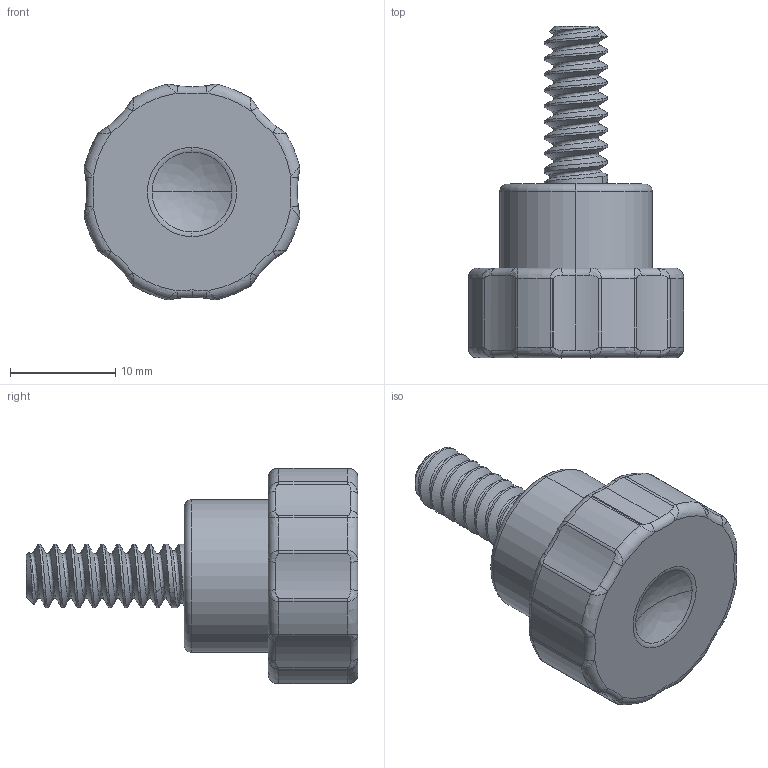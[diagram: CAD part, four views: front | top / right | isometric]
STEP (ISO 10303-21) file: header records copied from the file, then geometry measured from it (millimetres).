
FILE_DESCRIPTION (( 'STEP AP214' ), '1' );
FILE_NAME ('D21M6H15.STEP', '2020-06-30T10:47:19', ( '' ), ( '' ), 'SwSTEP 2.0', 'SolidWorks 2018', '' );
FILE_SCHEMA (( 'AUTOMOTIVE_DESIGN' ));
Length unit declared in the file: millimetre
Products named in the file (3): D21M6H15 Part 2; D21M6H15 Part 1; D21M6H15
Assembly tree (2 placements, depth 2):
  D21M6H15
    D21M6H15 Part 1
    D21M6H15 Part 2
Bounding box: 20.47 x 31.5 x 20.48 mm (x, y, z)
Volume: 4328.8 mm3; surface area: 3283.2 mm2
Topology: 2 solids, 2 shells, 163 faces, 384 edges, 231 vertices
Faces by surface type: cylinder 71, bspline 40, torus 38, plane 11, cone 3
Entity records: 11412 total; most frequent: CARTESIAN_POINT 7862, ORIENTED_EDGE 764, DIRECTION 704, EDGE_CURVE 382, AXIS2_PLACEMENT_3D 314, VERTEX_POINT 231, CIRCLE 186, EDGE_LOOP 171
